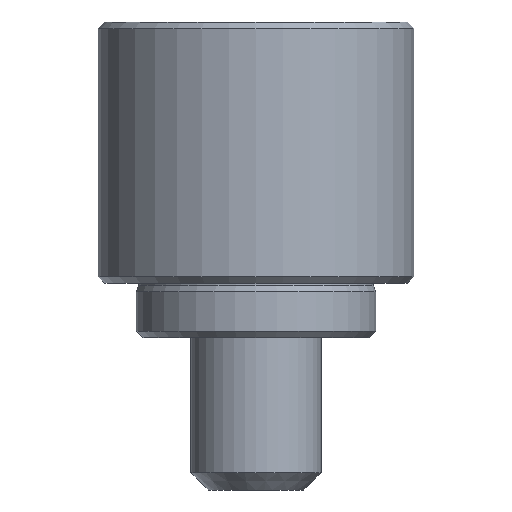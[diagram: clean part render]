
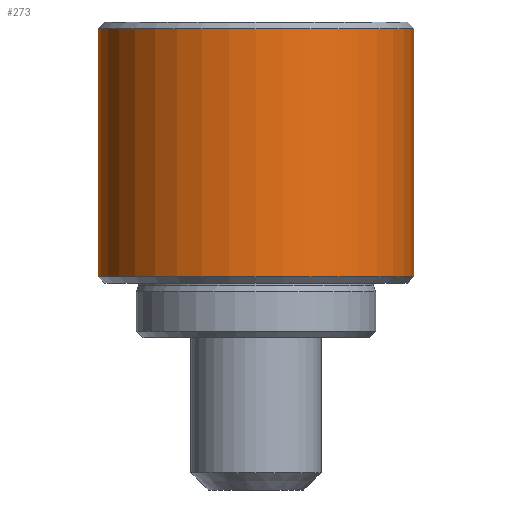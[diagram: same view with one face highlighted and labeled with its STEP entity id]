
A CAD part, front view. The second image highlights one B-rep face of the part: STEP entity #273.
In plain terms, the highlighted cylindrical face has radius 14.5 mm (diameter 29 mm), a full revolution.
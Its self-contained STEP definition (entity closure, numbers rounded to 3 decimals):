
#273=ADVANCED_FACE('',(#545,#547),#549,.T.);
#545=FACE_OUTER_BOUND('',#546,.T.);
#546=EDGE_LOOP('',(#680));
#547=FACE_OUTER_BOUND('',#548,.T.);
#548=EDGE_LOOP('',(#681));
#549=CYLINDRICAL_SURFACE('',#550,14.5);
#550=AXIS2_PLACEMENT_3D('',#551,#552,#553);
#551=CARTESIAN_POINT('',(0.,0.,29.));
#552=DIRECTION('',(0.,0.,-1.));
#553=DIRECTION('',(-1.,0.,0.));
#680=ORIENTED_EDGE('',*,*,#729,.T.);
#681=ORIENTED_EDGE('',*,*,#731,.F.);
#729=EDGE_CURVE('',#801,#801,#802,.T.);
#731=EDGE_CURVE('',#805,#805,#806,.T.);
#801=VERTEX_POINT('',#1220);
#802=CIRCLE('',#1221,14.5);
#805=VERTEX_POINT('',#1230);
#806=CIRCLE('',#1231,14.5);
#1220=CARTESIAN_POINT('',(-14.5,0.,28.4));
#1221=AXIS2_PLACEMENT_3D('',#1222,#1223,#1224);
#1222=CARTESIAN_POINT('',(0.,0.,28.4));
#1223=DIRECTION('',(0.,0.,-1.));
#1224=DIRECTION('',(-1.,0.,0.));
#1230=CARTESIAN_POINT('',(-14.5,0.,5.6));
#1231=AXIS2_PLACEMENT_3D('',#1232,#1233,#1234);
#1232=CARTESIAN_POINT('',(0.,0.,5.6));
#1233=DIRECTION('',(0.,0.,-1.));
#1234=DIRECTION('',(-1.,0.,0.));
